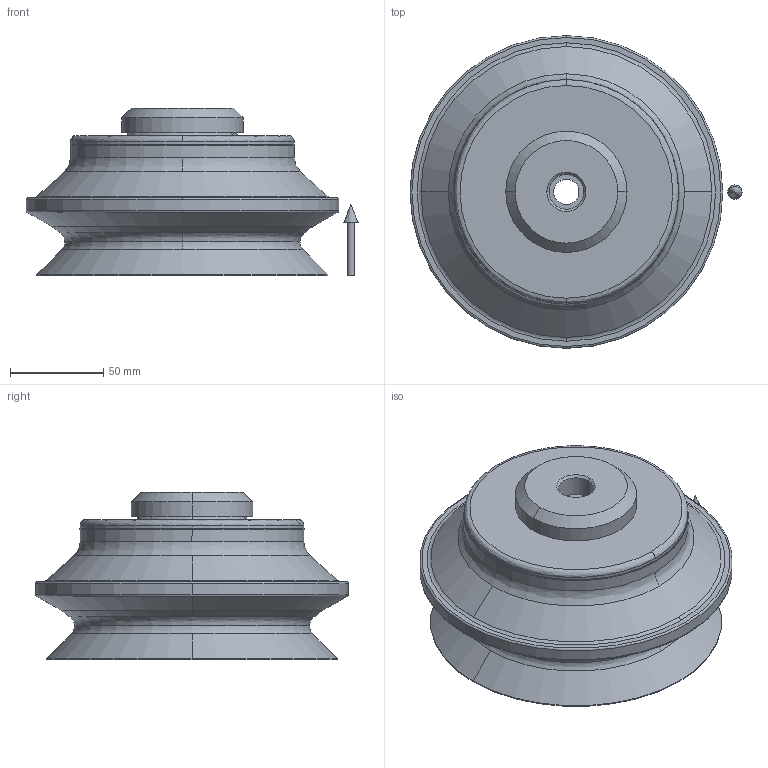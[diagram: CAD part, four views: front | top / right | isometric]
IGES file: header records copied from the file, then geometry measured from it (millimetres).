
Start section: 3D InterOp IGES (v. 2018 1.0.2), Spatial Corp. Copyright (c) 1999-2017.
Global section: file name: schmalz_10_01_06_00120_30dmq5ioys8t6wjyqyi4s861d.igs; native system: Spatial Corp.; preprocessor: 3D InterOp ACIS/IGES; author: TraceParts; organization: TraceParts S.A.; date: 20181107.074446; units: millimetre
Bounding box: 177.9 x 167.6 x 89.5 mm (x, y, z)
Surface area: 118180.9 mm2 (no closed solid volume)
Topology: 0 solids, 0 shells, 233 faces, 1074 edges, 1064 vertices
Faces by surface type: revolution 174, extrusion 59
